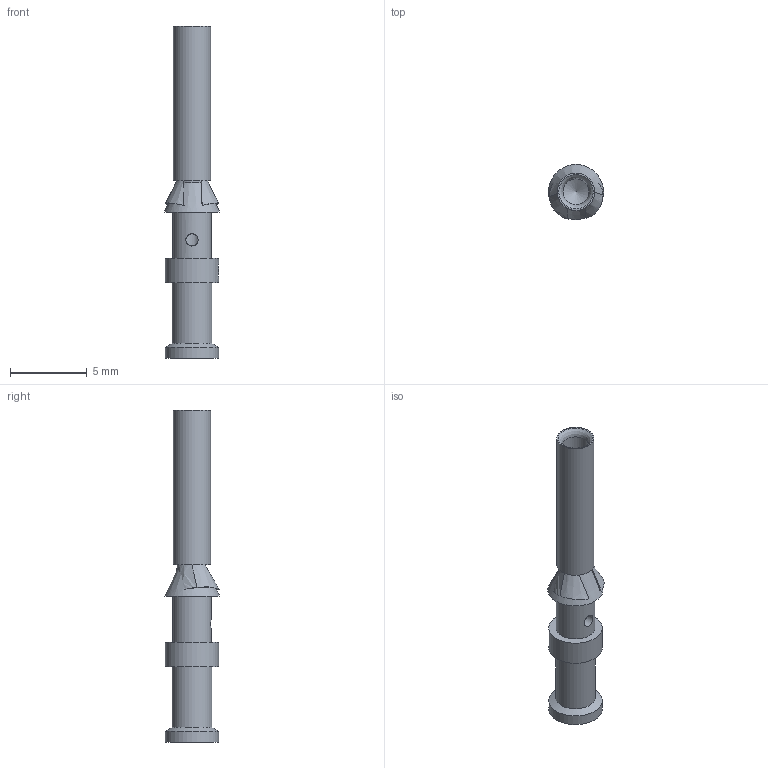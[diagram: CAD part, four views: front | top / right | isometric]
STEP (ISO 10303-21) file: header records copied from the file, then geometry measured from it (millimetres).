
FILE_DESCRIPTION(/* description */ ('STEP AP214'),/* implementation_level */ '2;1');
FILE_NAME(/* name */ '09150006203',/* time_stamp */ '2024-06-11T08:57:23+02:00',/* author */ ('License CC BY-ND 4.0'),/* organization */ ('CADENAS'),/* preprocessor_version */ 'ST-DEVELOPER v19.3',/* originating_system */ 'PARTsolutions',/* authorisation */ ' ');
FILE_SCHEMA (('AUTOMOTIVE_DESIGN {1 0 10303 214 3 1 1}'));
Length unit declared in the file: millimetre
Products named in the file (3): 09150006203; 09150006203_PART1; 09150006203_PART2
Assembly tree (2 placements, depth 2):
  09150006203
    09150006203_PART1
    09150006203_PART2
Bounding box: 3.6 x 3.6 x 21.65 mm (x, y, z)
Volume: 86.3 mm3; surface area: 318.4 mm2
Topology: 2 solids, 2 shells, 147 faces, 375 edges, 248 vertices
Faces by surface type: plane 100, cylinder 28, bspline 12, cone 5, torus 2
Full cylindrical faces by diameter (mm): 0.109 x1, 0.135 x1, 0.8 x1, 1.15 x1, 1.7 x1, 1.77 x1, 2.43 x1, 2.54 x1, 2.6 x1, 3.5 x2
Entity records: 5564 total; most frequent: CARTESIAN_POINT 1144, ORIENTED_EDGE 674, DIRECTION 654, EDGE_CURVE 337, VERTEX_POINT 234, AXIS2_PLACEMENT_3D 224, LINE 206, VECTOR 206
